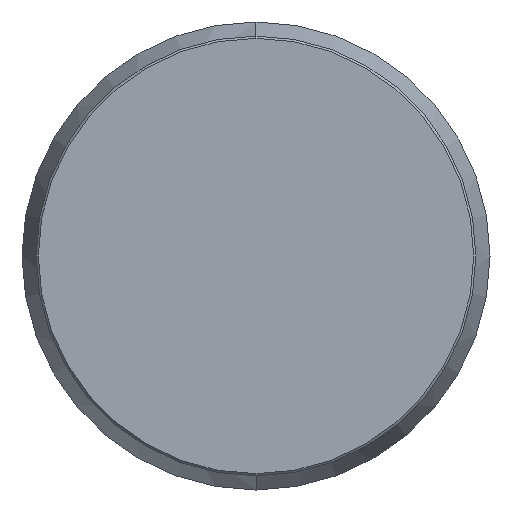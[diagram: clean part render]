
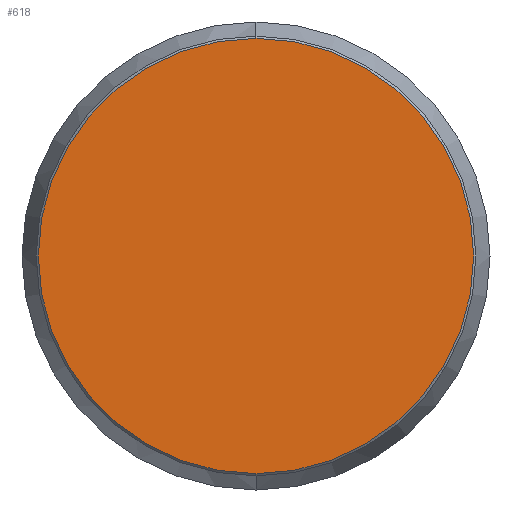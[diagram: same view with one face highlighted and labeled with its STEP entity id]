
A CAD part, left-side view. The second image highlights one B-rep face of the part: STEP entity #618.
In plain terms, the highlighted planar face has unit normal (-1, 0, 0).
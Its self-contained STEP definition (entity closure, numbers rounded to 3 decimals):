
#13 = CARTESIAN_POINT ( 'NONE',  ( 0., 0., 0. ) ) ;
#16 = CARTESIAN_POINT ( 'NONE',  ( 0., 0., -30.7 ) ) ;
#49 = FACE_OUTER_BOUND ( 'NONE', #155, .T. ) ;
#96 = AXIS2_PLACEMENT_3D ( 'NONE', #391, #121, #494 ) ;
#121 = DIRECTION ( 'NONE',  ( -1., 0., 0. ) ) ;
#122 = DIRECTION ( 'NONE',  ( 1., 0., 0. ) ) ;
#155 = EDGE_LOOP ( 'NONE', ( #643, #222 ) ) ;
#219 = CIRCLE ( 'NONE', #96, 30.7 ) ;
#222 = ORIENTED_EDGE ( 'NONE', *, *, #470, .T. ) ;
#227 = DIRECTION ( 'NONE',  ( 0., 0., 1. ) ) ;
#293 = CARTESIAN_POINT ( 'NONE',  ( 0., 0., 30.7 ) ) ;
#391 = CARTESIAN_POINT ( 'NONE',  ( 0., 0., 0. ) ) ;
#395 = PLANE ( 'NONE',  #609 ) ;
#406 = EDGE_CURVE ( 'NONE', #507, #587, #524, .T. ) ;
#470 = EDGE_CURVE ( 'NONE', #587, #507, #219, .T. ) ;
#494 = DIRECTION ( 'NONE',  ( 0., 0., 1. ) ) ;
#507 = VERTEX_POINT ( 'NONE', #16 ) ;
#524 = CIRCLE ( 'NONE', #619, 30.7 ) ;
#587 = VERTEX_POINT ( 'NONE', #293 ) ;
#605 = DIRECTION ( 'NONE',  ( -1., 0., 0. ) ) ;
#609 = AXIS2_PLACEMENT_3D ( 'NONE', #13, #122, #632 ) ;
#613 = CARTESIAN_POINT ( 'NONE',  ( 0., 0., 0. ) ) ;
#618 = ADVANCED_FACE ( 'NONE', ( #49 ), #395, .F. ) ;
#619 = AXIS2_PLACEMENT_3D ( 'NONE', #613, #605, #227 ) ;
#632 = DIRECTION ( 'NONE',  ( 0., 0., -1. ) ) ;
#643 = ORIENTED_EDGE ( 'NONE', *, *, #406, .T. ) ;
